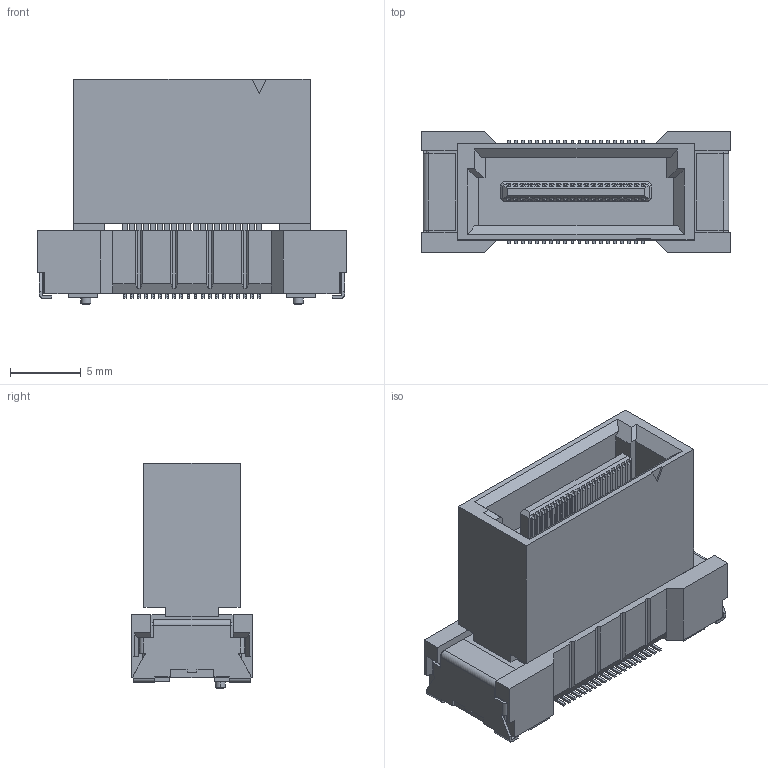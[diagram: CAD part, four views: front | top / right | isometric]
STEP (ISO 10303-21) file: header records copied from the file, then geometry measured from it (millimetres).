
FILE_DESCRIPTION(('Creo Elements/Direct Modeling STEP Export'),'2;1');
FILE_NAME('P3E104_DT01-040FS-10-T.stp','2022-02-25T17:26:27',(''),(''),'Creo Elements/Direct Modeling STEP processor for AP214 (Solid Model)','Creo Elements/Direct Modeling 20.4A 18-Oct-2021 (C) Parametric Technology GmbH','');
FILE_SCHEMA(('AUTOMOTIVE_DESIGN { 1 0 10303 214 1 1 1 1 }'));
Length unit declared in the file: millimetre
Products named in the file (2): P3E104_DT01-040FS-10-T
Assembly tree (1 placements, depth 2):
  P3E104_DT01-040FS-10-T
    P3E104_DT01-040FS-10-T
Bounding box: 21.8 x 8.5 x 15.95 mm (x, y, z)
Volume: 1654.5 mm3; surface area: 1659.4 mm2
Topology: 1 solids, 1 shells, 1295 faces, 3639 edges, 2388 vertices
Faces by surface type: plane 1181, cylinder 110, cone 4
Entity records: 40362 total; most frequent: ORIENTED_EDGE 7278, CARTESIAN_POINT 7140, DIRECTION 6221, EDGE_CURVE 3639, VECTOR 3283, LINE 3283, VERTEX_POINT 2388, AXIS2_PLACEMENT_3D 1469
